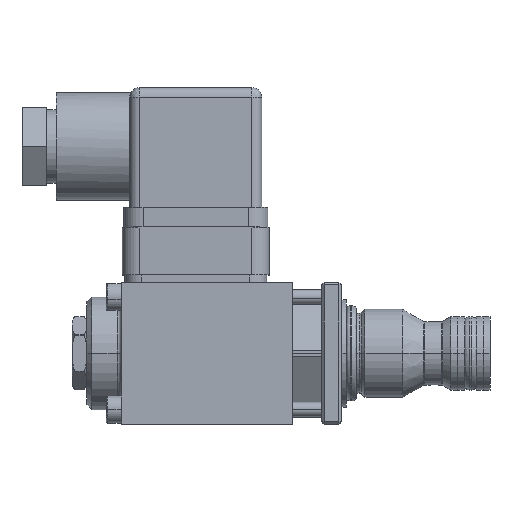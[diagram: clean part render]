
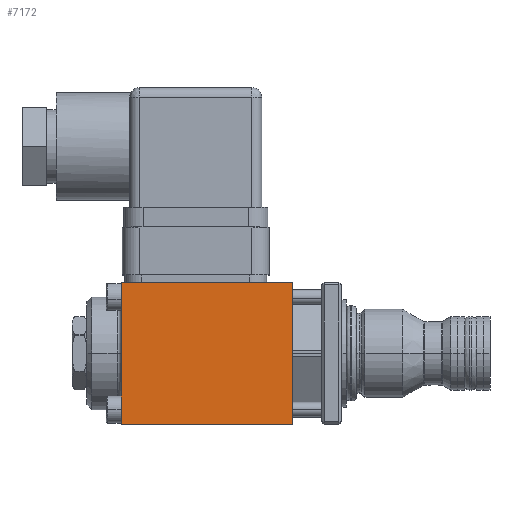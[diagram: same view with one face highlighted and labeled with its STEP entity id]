
A CAD part, top view. The second image highlights one B-rep face of the part: STEP entity #7172.
In plain terms, the highlighted planar face has unit normal (0, 0, 1).
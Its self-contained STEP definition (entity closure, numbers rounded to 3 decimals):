
#926 = VERTEX_POINT ( 'NONE', #13341 ) ;
#1367 = ORIENTED_EDGE ( 'NONE', *, *, #5355, .T. ) ;
#2238 = LINE ( 'NONE', #7753, #2715 ) ;
#2460 = CARTESIAN_POINT ( 'NONE',  ( 0., -14.5, 14.5 ) ) ;
#2715 = VECTOR ( 'NONE', #19585, 1000. ) ;
#4808 = DIRECTION ( 'NONE',  ( 0., 0., -1. ) ) ;
#5355 = EDGE_CURVE ( 'NONE', #15166, #926, #17641, .T. ) ;
#6033 = CARTESIAN_POINT ( 'NONE',  ( 0., 14.5, 14.5 ) ) ;
#7172 = ADVANCED_FACE ( 'NONE', ( #29022 ), #8224, .F. ) ;
#7193 = DIRECTION ( 'NONE',  ( -1., 0., 0. ) ) ;
#7753 = CARTESIAN_POINT ( 'NONE',  ( 0., -14.5, 14.5 ) ) ;
#8224 = PLANE ( 'NONE',  #28509 ) ;
#8284 = VECTOR ( 'NONE', #27372, 1000. ) ;
#8314 = ORIENTED_EDGE ( 'NONE', *, *, #8544, .F. ) ;
#8544 = EDGE_CURVE ( 'NONE', #8959, #10076, #29081, .T. ) ;
#8959 = VERTEX_POINT ( 'NONE', #15323 ) ;
#9534 = EDGE_LOOP ( 'NONE', ( #1367, #22952, #8314, #27643 ) ) ;
#10076 = VERTEX_POINT ( 'NONE', #10748 ) ;
#10748 = CARTESIAN_POINT ( 'NONE',  ( -35., -14.5, 14.5 ) ) ;
#11612 = DIRECTION ( 'NONE',  ( -1., 0., 0. ) ) ;
#11810 = CARTESIAN_POINT ( 'NONE',  ( 0.707, -14.5, 14.5 ) ) ;
#12651 = EDGE_CURVE ( 'NONE', #10076, #926, #20551, .T. ) ;
#13341 = CARTESIAN_POINT ( 'NONE',  ( -35., 14.5, 14.5 ) ) ;
#14494 = EDGE_CURVE ( 'NONE', #15166, #8959, #2238, .T. ) ;
#15166 = VERTEX_POINT ( 'NONE', #6033 ) ;
#15323 = CARTESIAN_POINT ( 'NONE',  ( 0., -14.5, 14.5 ) ) ;
#16829 = VECTOR ( 'NONE', #20519, 1000. ) ;
#17641 = LINE ( 'NONE', #23816, #16829 ) ;
#19585 = DIRECTION ( 'NONE',  ( 0., -1., 0. ) ) ;
#20519 = DIRECTION ( 'NONE',  ( -1., 0., 0. ) ) ;
#20551 = LINE ( 'NONE', #27974, #8284 ) ;
#22952 = ORIENTED_EDGE ( 'NONE', *, *, #12651, .F. ) ;
#23816 = CARTESIAN_POINT ( 'NONE',  ( 0.707, 14.5, 14.5 ) ) ;
#24839 = VECTOR ( 'NONE', #11612, 1000. ) ;
#27372 = DIRECTION ( 'NONE',  ( 0., 1., 0. ) ) ;
#27643 = ORIENTED_EDGE ( 'NONE', *, *, #14494, .F. ) ;
#27974 = CARTESIAN_POINT ( 'NONE',  ( -35., -15.207, 14.5 ) ) ;
#28509 = AXIS2_PLACEMENT_3D ( 'NONE', #2460, #4808, #7193 ) ;
#29022 = FACE_OUTER_BOUND ( 'NONE', #9534, .T. ) ;
#29081 = LINE ( 'NONE', #11810, #24839 ) ;
